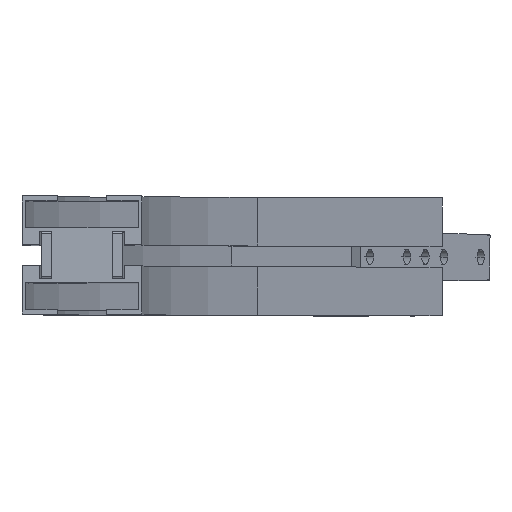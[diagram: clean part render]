
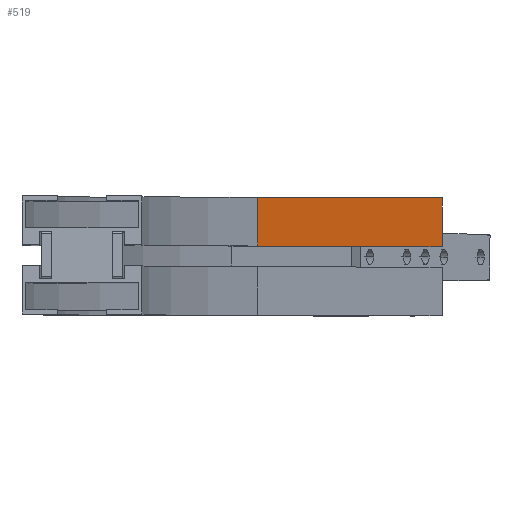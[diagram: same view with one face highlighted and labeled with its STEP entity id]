
A CAD part, top view. The second image highlights one B-rep face of the part: STEP entity #519.
In plain terms, the highlighted planar face has unit normal (0.866, 0, 0.5).
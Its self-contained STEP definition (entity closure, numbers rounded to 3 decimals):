
#262 = ORIENTED_EDGE ( 'NONE', *, *, #527, .T. ) ;
#348 = EDGE_LOOP ( 'NONE', ( #349, #350, #522, #262 ) ) ;
#349 = ORIENTED_EDGE ( 'NONE', *, *, #1282, .T. ) ;
#350 = ORIENTED_EDGE ( 'NONE', *, *, #351, .F. ) ;
#351 = EDGE_CURVE ( 'NONE', #521, #1386, #2531, .T. ) ;
#516 = VERTEX_POINT ( 'NONE', #2729 ) ;
#519 = ADVANCED_FACE ( 'NONE', ( #2771 ), #2770, .T. ) ;
#520 = EDGE_CURVE ( 'NONE', #516, #521, #2768, .T. ) ;
#521 = VERTEX_POINT ( 'NONE', #2761 ) ;
#522 = ORIENTED_EDGE ( 'NONE', *, *, #520, .F. ) ;
#527 = EDGE_CURVE ( 'NONE', #516, #1258, #2699, .T. ) ;
#1258 = VERTEX_POINT ( 'NONE', #3950 ) ;
#1282 = EDGE_CURVE ( 'NONE', #1258, #1386, #4228, .T. ) ;
#1386 = VERTEX_POINT ( 'NONE', #4316 ) ;
#2528 = DIRECTION ( 'NONE',  ( -0.5, 0., 0.866 ) ) ;
#2529 = VECTOR ( 'NONE', #2528, 1000. ) ;
#2530 = CARTESIAN_POINT ( 'NONE',  ( 293.633, 32., -815.955 ) ) ;
#2531 = LINE ( 'NONE', #2530, #2529 ) ;
#2696 = DIRECTION ( 'NONE',  ( -0.5, 0., 0.866 ) ) ;
#2697 = VECTOR ( 'NONE', #2696, 1000. ) ;
#2698 = CARTESIAN_POINT ( 'NONE',  ( 193.633, 58.4, -642.75 ) ) ;
#2699 = LINE ( 'NONE', #2698, #2697 ) ;
#2729 = CARTESIAN_POINT ( 'NONE',  ( 293.633, 58.4, -815.955 ) ) ;
#2761 = CARTESIAN_POINT ( 'NONE',  ( 293.633, 32., -815.955 ) ) ;
#2762 = DIRECTION ( 'NONE',  ( 0., -1., 0. ) ) ;
#2763 = VECTOR ( 'NONE', #2762, 1000. ) ;
#2764 = CARTESIAN_POINT ( 'NONE',  ( 293.633, 41.2, -815.955 ) ) ;
#2765 = DIRECTION ( 'NONE',  ( 0.5, 0., -0.866 ) ) ;
#2766 = DIRECTION ( 'NONE',  ( 0.866, 0., 0.5 ) ) ;
#2767 = AXIS2_PLACEMENT_3D ( 'NONE', #2769, #2766, #2765 ) ;
#2768 = LINE ( 'NONE', #2764, #2763 ) ;
#2769 = CARTESIAN_POINT ( 'NONE',  ( 193.633, 32., -642.75 ) ) ;
#2770 = PLANE ( 'NONE',  #2767 ) ;
#2771 = FACE_OUTER_BOUND ( 'NONE', #348, .T. ) ;
#3950 = CARTESIAN_POINT ( 'NONE',  ( 193.633, 58.4, -642.75 ) ) ;
#4152 = DIRECTION ( 'NONE',  ( 0., -1., 0. ) ) ;
#4153 = VECTOR ( 'NONE', #4152, 1000. ) ;
#4154 = CARTESIAN_POINT ( 'NONE',  ( 193.633, 32., -642.75 ) ) ;
#4228 = LINE ( 'NONE', #4154, #4153 ) ;
#4316 = CARTESIAN_POINT ( 'NONE',  ( 193.633, 32., -642.75 ) ) ;
